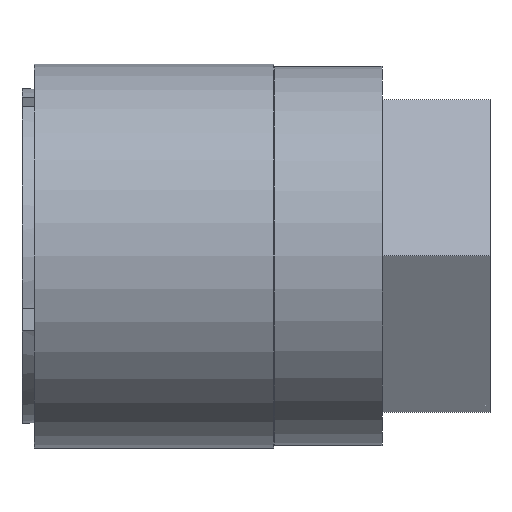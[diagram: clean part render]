
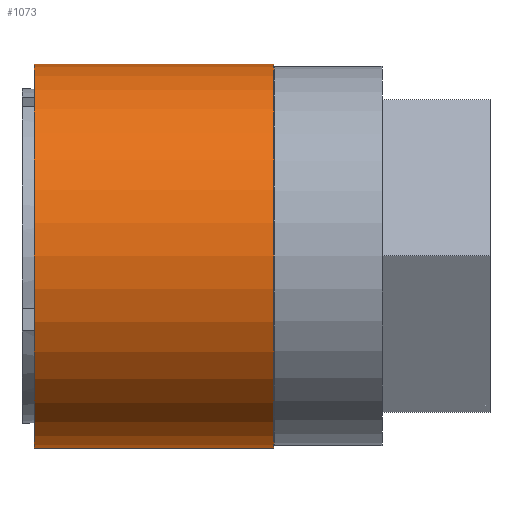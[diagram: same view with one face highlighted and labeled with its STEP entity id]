
A CAD part, front view. The second image highlights one B-rep face of the part: STEP entity #1073.
In plain terms, the highlighted cylindrical face has radius 8 mm (diameter 16 mm), a partial arc.
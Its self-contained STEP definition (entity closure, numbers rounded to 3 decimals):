
#120 = ORIENTED_EDGE ( 'NONE', *, *, #1533, .F. ) ;
#121 = ORIENTED_EDGE ( 'NONE', *, *, #1613, .T. ) ;
#164 = ORIENTED_EDGE ( 'NONE', *, *, #1529, .F. ) ;
#165 = ORIENTED_EDGE ( 'NONE', *, *, #1535, .T. ) ;
#227 = FACE_OUTER_BOUND ( 'NONE', #1194, .T. ) ;
#235 = CYLINDRICAL_SURFACE ( 'NONE', #1245, 8. ) ;
#285 = LINE ( 'NONE', #771, #295 ) ;
#295 = VECTOR ( 'NONE', #776, 1000. ) ;
#304 = CIRCLE ( 'NONE', #1652, 8. ) ;
#306 = CIRCLE ( 'NONE', #1649, 8. ) ;
#353 = VERTEX_POINT ( 'NONE', #488 ) ;
#356 = VERTEX_POINT ( 'NONE', #478 ) ;
#391 = VERTEX_POINT ( 'NONE', #523 ) ;
#408 = VERTEX_POINT ( 'NONE', #540 ) ;
#478 = CARTESIAN_POINT ( 'NONE',  ( 0.5, 0., -8. ) ) ;
#488 = CARTESIAN_POINT ( 'NONE',  ( 10.5, 0., -8. ) ) ;
#523 = CARTESIAN_POINT ( 'NONE',  ( 10.5, 0., 8. ) ) ;
#540 = CARTESIAN_POINT ( 'NONE',  ( 0.5, 0., 8. ) ) ;
#629 = DIRECTION ( 'NONE',  ( 0., 0., 1. ) ) ;
#633 = DIRECTION ( 'NONE',  ( -1., 0., 0. ) ) ;
#634 = CARTESIAN_POINT ( 'NONE',  ( 0., 0., 0. ) ) ;
#771 = CARTESIAN_POINT ( 'NONE',  ( 0., 0., -8. ) ) ;
#776 = DIRECTION ( 'NONE',  ( -1., 0., 0. ) ) ;
#782 = CARTESIAN_POINT ( 'NONE',  ( 0.5, 0., 0. ) ) ;
#783 = DIRECTION ( 'NONE',  ( -1., 0., 0. ) ) ;
#784 = DIRECTION ( 'NONE',  ( 0., 0., 1. ) ) ;
#788 = CARTESIAN_POINT ( 'NONE',  ( 10.5, 0., 0. ) ) ;
#789 = DIRECTION ( 'NONE',  ( -1., 0., 0. ) ) ;
#790 = DIRECTION ( 'NONE',  ( 0., 0., 1. ) ) ;
#963 = VECTOR ( 'NONE', #1500, 1000. ) ;
#970 = LINE ( 'NONE', #1513, #963 ) ;
#1073 = ADVANCED_FACE ( 'NONE', ( #227 ), #235, .T. ) ;
#1194 = EDGE_LOOP ( 'NONE', ( #164, #165, #121, #120 ) ) ;
#1245 = AXIS2_PLACEMENT_3D ( 'NONE', #634, #633, #629 ) ;
#1500 = DIRECTION ( 'NONE',  ( -1., 0., 0. ) ) ;
#1513 = CARTESIAN_POINT ( 'NONE',  ( 0., 0., 8. ) ) ;
#1529 = EDGE_CURVE ( 'NONE', #353, #356, #285, .T. ) ;
#1533 = EDGE_CURVE ( 'NONE', #356, #408, #304, .T. ) ;
#1535 = EDGE_CURVE ( 'NONE', #353, #391, #306, .T. ) ;
#1613 = EDGE_CURVE ( 'NONE', #391, #408, #970, .T. ) ;
#1649 = AXIS2_PLACEMENT_3D ( 'NONE', #788, #789, #790 ) ;
#1652 = AXIS2_PLACEMENT_3D ( 'NONE', #782, #783, #784 ) ;
